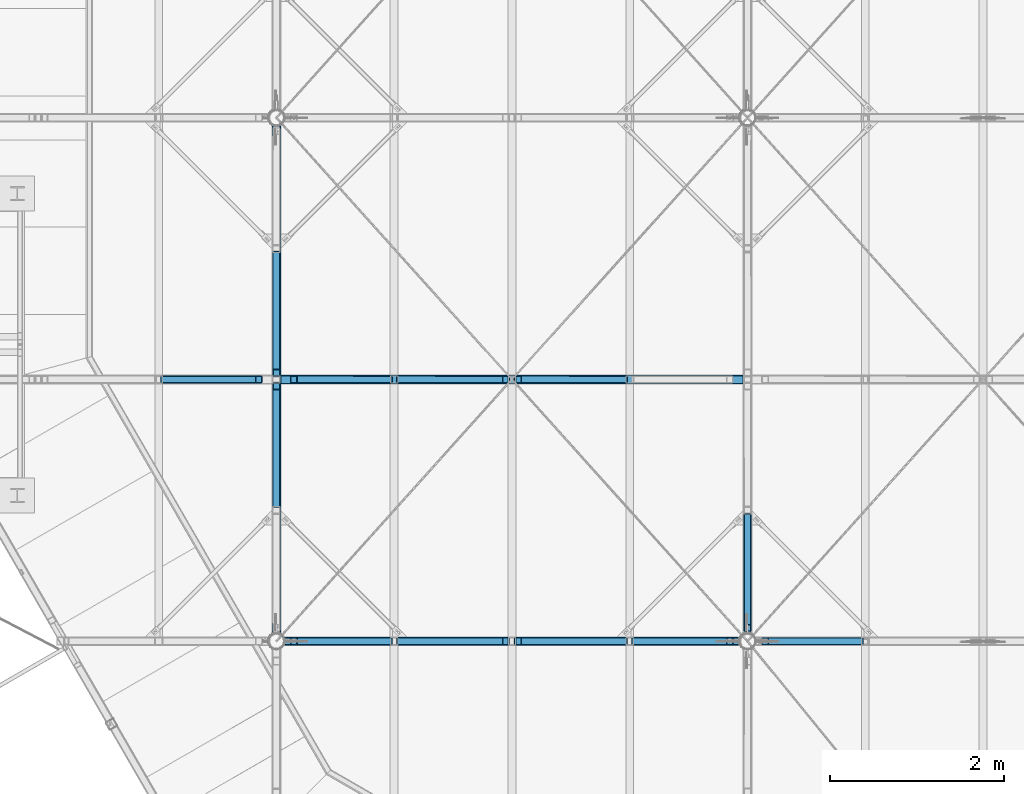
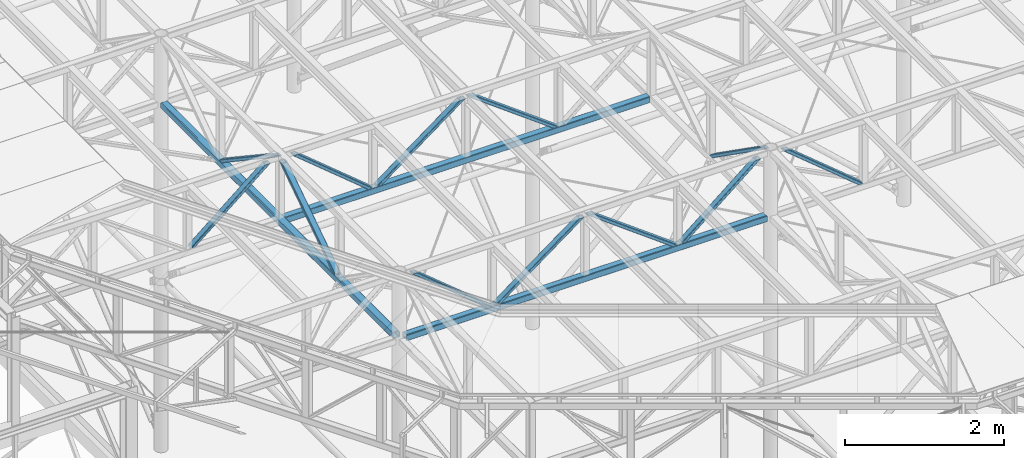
# One storey, part 43 of 132: 15 discrete accessories, 6 elements without a shape of their own.
"""IFC2X3 building model written with IfcOpenShell, lengths in millimetres."""

from ifc_helpers import new_model, si_unit, frame, origin_with_axes, origin_2d_with_axis, place, context, subcontext, project, spatial, hollow_rectangle, circle, extrude, boolean, halfspace, material, type_object, element, aggregate, save


model = new_model("IFC2X3")

# Units and contexts
model_context = context("Model", 3, precision=1e-05, world=origin_with_axes())
body_context = subcontext(model_context, "Body", "Model", "MODEL_VIEW")
ifc_project = project(units=[si_unit("LENGTHUNIT", "METRE", prefix="MILLI"), si_unit("AREAUNIT", "SQUARE_METRE"), si_unit("VOLUMEUNIT", "CUBIC_METRE"), si_unit("MASSUNIT", "GRAM", prefix="KILO"), si_unit("TIMEUNIT", "SECOND"), si_unit("PLANEANGLEUNIT", "RADIAN"), si_unit("SOLIDANGLEUNIT", "STERADIAN"), si_unit("THERMODYNAMICTEMPERATUREUNIT", "DEGREE_CELSIUS"), si_unit("LUMINOUSINTENSITYUNIT", "LUMEN")], contexts=[model_context])

# Site, building, storey
site_placement = place(None, origin_with_axes())
site = spatial("IfcSite", under=ifc_project, at=site_placement, Name="Budowa", CompositionType="ELEMENT")
building_placement = place(site_placement, origin_with_axes())
building = spatial("IfcBuilding", under=site, at=building_placement, Name="Undefined", CompositionType="ELEMENT")
storey_placement = place(building_placement, origin_with_axes())
storey = spatial("IfcBuildingStorey", under=building, at=storey_placement, Name="Undefined", CompositionType="ELEMENT", Elevation=0.0)

# Assembly, discrete accessory
assembly_1_placement = place(storey_placement, origin_with_axes())
assembly_1 = element("IfcElementAssembly", 1, at=assembly_1_placement, inside=storey, Name="Steel Assembly", AssemblyPlace="NOTDEFINED", PredefinedType="RIGID_FRAME")
ifc_material = material(Name="STEEL/S235")
discrete_accessory_type = type_object("IfcDiscreteAccessoryType", Name="BEAM")
discrete_accessory_1_placement = place(assembly_1_placement, frame((3884.0999999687, 9000.00000004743, 13830.0000000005), z_axis=(0.0, -1.0, 0.0), x_axis=(-0.77030791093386, 0.0, -0.637672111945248)))
solid_1 = boolean("DIFFERENCE", boolean("DIFFERENCE", extrude(hollow_rectangle(XDim=90.0, YDim=90.0, WallThickness=6.0, InnerFilletRadius=6.0, OuterFilletRadius=12.0, at=origin_2d_with_axis()), frame((1536.32046276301, -38.5153958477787, 3.71073838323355e-10), z_axis=(-0.637672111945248, -0.770307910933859, 0.0), x_axis=(0.0, 0.0, 1.0)), (0.0, 0.0, 1.0), 900.0), halfspace(frame((766.012551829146, 599.156716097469, 3.71073838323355e-10), z_axis=(-0.637672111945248, -0.770307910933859, 0.0), x_axis=(0.77030791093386, -0.637672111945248, 0.0)), True)), halfspace(frame((192.107651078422, -94.1204037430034, 3.71073838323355e-10), z_axis=(0.637672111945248, 0.770307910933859, 0.0), x_axis=(0.77030791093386, -0.637672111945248, 0.0)), True))
discrete_accessory_1 = element("IfcDiscreteAccessory", 2, at=discrete_accessory_1_placement, type_object=discrete_accessory_type, material=ifc_material, Name="BEAM", ObjectType="RHS90*50*5", context=body_context, shape_type="CSG", body=[
    boolean("DIFFERENCE", boolean("DIFFERENCE", boolean("DIFFERENCE", extrude(hollow_rectangle(XDim=50.0, YDim=90.0, WallThickness=5.0, InnerFilletRadius=7.5, OuterFilletRadius=12.5, at=origin_2d_with_axis()), frame((1532.27723418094, -9.9455317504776e-13, 0.0), z_axis=(-1.0, 0.0, 0.0), x_axis=(0.0, -1.0, 0.0)), (0.0, 0.0, 1.0), 1496.35), solid_1), halfspace(frame((1536.3204623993, -38.515395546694, 1000.0), z_axis=(-0.637672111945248, -0.770307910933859, 0.0), x_axis=(0.77030791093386, -0.637672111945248, 0.0)), True)), halfspace(frame((31.8836055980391, 38.5153955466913, 1000.0), z_axis=(0.637672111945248, 0.770307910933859, 0.0), x_axis=(-0.770307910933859, 0.637672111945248, 0.0)), True)),
])
aggregate(assembly_1, [discrete_accessory_1])

# Assembly, discrete accessories
assembly_2_placement = place(storey_placement, origin_with_axes())
assembly_2 = element("IfcElementAssembly", 3, at=assembly_2_placement, inside=storey, Name="Steel Assembly", AssemblyPlace="NOTDEFINED", PredefinedType="RIGID_FRAME")
discrete_accessory_2_placement = place(assembly_2_placement, frame((4165.99999993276, 9000.00000004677, 13830.0), z_axis=(0.0, -1.0, 0.0), x_axis=(0.770567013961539, 0.0, -0.637358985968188)))
solid_2 = boolean("DIFFERENCE", boolean("DIFFERENCE", extrude(hollow_rectangle(XDim=90.0, YDim=90.0, WallThickness=6.0, InnerFilletRadius=6.0, OuterFilletRadius=12.0, at=origin_2d_with_axis()), frame((1537.1065565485, 38.528350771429, -6.22094376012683e-10), z_axis=(-0.637358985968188, 0.770567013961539, 0.0), x_axis=(-0.770567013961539, -0.637358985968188, 0.0)), (0.0, 0.0, 1.0), 900.0), halfspace(frame((1537.1065565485, 38.5283507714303, 999.999999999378), z_axis=(-0.637358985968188, 0.770567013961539, 0.0), x_axis=(-0.770567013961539, -0.637358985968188, 0.0)), True)), halfspace(frame((963.483469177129, 732.038663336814, 999.999999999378), z_axis=(0.637358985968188, -0.770567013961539, 0.0), x_axis=(0.770567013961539, 0.637358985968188, 0.0)), True))
discrete_accessory_2 = element("IfcDiscreteAccessory", 4, at=discrete_accessory_2_placement, type_object=discrete_accessory_type, material=ifc_material, Name="BEAM", ObjectType="RHS90*50*5", context=body_context, shape_type="CSG", body=[
    boolean("DIFFERENCE", boolean("DIFFERENCE", boolean("DIFFERENCE", extrude(hollow_rectangle(XDim=50.0, YDim=90.0, WallThickness=5.0, InnerFilletRadius=7.5, OuterFilletRadius=12.5, at=origin_2d_with_axis()), frame((1533.07734352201, 2.27373675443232e-12, 0.0), z_axis=(-1.0, 0.0, 0.0), x_axis=(0.0, -1.0, 0.0)), (0.0, 0.0, 1.0), 1497.18), solid_2), halfspace(frame((1537.1065565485, 38.5283507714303, 999.999999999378), z_axis=(-0.637358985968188, 0.770567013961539, 0.0), x_axis=(-0.770567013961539, -0.637358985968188, 0.0)), True)), halfspace(frame((31.867949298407, -38.5283506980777, 1000.0), z_axis=(0.637358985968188, -0.770567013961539, 0.0), x_axis=(0.770567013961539, 0.637358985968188, 0.0)), True)),
])
discrete_accessory_3_placement = place(assembly_2_placement, frame((6724.99999993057, 9000.00000004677, 13830.0), z_axis=(0.0, -1.0, 0.0), x_axis=(-0.803557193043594, 0.0, -0.595227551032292)))
solid_3 = boolean("DIFFERENCE", boolean("DIFFERENCE", extrude(hollow_rectangle(XDim=90.0, YDim=90.0, WallThickness=6.0, InnerFilletRadius=6.0, OuterFilletRadius=12.0, at=origin_2d_with_axis()), frame((565.466173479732, 763.379333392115, -6.22094376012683e-10), z_axis=(-0.595227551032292, -0.803557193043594, 0.0), x_axis=(0.803557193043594, -0.595227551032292, 0.0)), (0.0, 0.0, 1.0), 900.0), halfspace(frame((565.46617347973, 763.379333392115, 999.999999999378), z_axis=(-0.595227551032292, -0.803557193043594, 0.0), x_axis=(0.803557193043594, -0.595227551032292, 0.0)), True)), halfspace(frame((29.7613775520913, 40.1778596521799, 1000.0), z_axis=(0.595227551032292, 0.803557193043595, 0.0), x_axis=(-0.803557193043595, 0.595227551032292, 0.0)), True))
solid_4 = boolean("DIFFERENCE", boolean("DIFFERENCE", extrude(hollow_rectangle(XDim=90.0, YDim=90.0, WallThickness=6.0, InnerFilletRadius=6.0, OuterFilletRadius=12.0, at=origin_2d_with_axis()), frame((1650.26838408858, -40.1778605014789, -6.22094376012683e-10), z_axis=(-0.595227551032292, -0.803557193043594, 0.0), x_axis=(0.803557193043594, -0.595227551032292, 0.0)), (0.0, 0.0, 1.0), 900.0), halfspace(frame((1650.2683829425, -40.1778596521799, 1000.0), z_axis=(-0.595227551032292, -0.803557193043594, 0.0), x_axis=(0.803557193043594, -0.595227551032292, 0.0)), True)), halfspace(frame((1114.56358815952, -763.379334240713, 999.999999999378), z_axis=(0.595227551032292, 0.803557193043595, 0.0), x_axis=(-0.803557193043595, 0.595227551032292, 0.0)), True))
discrete_accessory_3 = element("IfcDiscreteAccessory", 5, at=discrete_accessory_3_placement, type_object=discrete_accessory_type, material=ifc_material, Name="BEAM", ObjectType="RHS90*50*5", context=body_context, shape_type="CSG", body=[
    boolean("DIFFERENCE", boolean("DIFFERENCE", boolean("DIFFERENCE", boolean("DIFFERENCE", extrude(hollow_rectangle(XDim=50.0, YDim=90.0, WallThickness=5.0, InnerFilletRadius=7.5, OuterFilletRadius=12.5, at=origin_2d_with_axis()), frame((1632.54994793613, 0.0, 0.0), z_axis=(-1.0, 0.0, 0.0), x_axis=(0.0, -1.0, 0.0)), (0.0, 0.0, 1.0), 1585.07), solid_3), solid_4), halfspace(frame((1650.2683829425, -40.1778596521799, 1000.0), z_axis=(-0.595227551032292, -0.803557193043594, 0.0), x_axis=(0.803557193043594, -0.595227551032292, 0.0)), True)), halfspace(frame((29.7613775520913, 40.1778596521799, 1000.0), z_axis=(0.595227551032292, 0.803557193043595, 0.0), x_axis=(-0.803557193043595, 0.595227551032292, 0.0)), True)),
])
discrete_accessory_4_placement = place(assembly_2_placement, frame((6724.99999993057, 9000.00000004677, 13830.0), z_axis=(0.0, -1.0, 0.0), x_axis=(0.803557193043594, 0.0, -0.595227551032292)))
solid_5 = boolean("DIFFERENCE", boolean("DIFFERENCE", extrude(hollow_rectangle(XDim=90.0, YDim=90.0, WallThickness=6.0, InnerFilletRadius=6.0, OuterFilletRadius=12.0, at=origin_2d_with_axis()), frame((1650.26838408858, 40.1778605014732, -6.22094376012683e-10), z_axis=(-0.595227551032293, 0.803557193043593, 0.0), x_axis=(-0.803557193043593, -0.595227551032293, 0.0)), (0.0, 0.0, 1.0), 900.0), halfspace(frame((1650.2683829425, 40.1778596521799, 1000.0), z_axis=(-0.595227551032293, 0.803557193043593, 0.0), x_axis=(-0.803557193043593, -0.595227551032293, 0.0)), True)), halfspace(frame((1114.56358815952, 763.379334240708, 999.999999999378), z_axis=(0.595227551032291, -0.803557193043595, 0.0), x_axis=(0.803557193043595, 0.595227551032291, 0.0)), True))
solid_6 = boolean("DIFFERENCE", boolean("DIFFERENCE", extrude(hollow_rectangle(XDim=90.0, YDim=90.0, WallThickness=6.0, InnerFilletRadius=6.0, OuterFilletRadius=12.0, at=origin_2d_with_axis()), frame((565.46617347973, -763.379333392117, -6.22094376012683e-10), z_axis=(-0.595227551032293, 0.803557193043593, 0.0), x_axis=(-0.803557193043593, -0.595227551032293, 0.0)), (0.0, 0.0, 1.0), 900.0), halfspace(frame((565.46617347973, -763.37933339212, 999.999999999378), z_axis=(-0.595227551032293, 0.803557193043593, 0.0), x_axis=(-0.803557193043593, -0.595227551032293, 0.0)), True)), halfspace(frame((29.7613775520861, -40.1778596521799, 1000.0), z_axis=(0.595227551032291, -0.803557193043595, 0.0), x_axis=(0.803557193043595, 0.595227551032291, 0.0)), True))
discrete_accessory_4 = element("IfcDiscreteAccessory", 6, at=discrete_accessory_4_placement, type_object=discrete_accessory_type, material=ifc_material, Name="BEAM", ObjectType="RHS90*50*5", context=body_context, shape_type="CSG", body=[
    boolean("DIFFERENCE", boolean("DIFFERENCE", boolean("DIFFERENCE", boolean("DIFFERENCE", extrude(hollow_rectangle(XDim=50.0, YDim=90.0, WallThickness=5.0, InnerFilletRadius=7.5, OuterFilletRadius=12.5, at=origin_2d_with_axis()), frame((1632.54994793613, 0.0, 0.0), z_axis=(-1.0, 0.0, 0.0), x_axis=(0.0, -1.0, 0.0)), (0.0, 0.0, 1.0), 1585.07), solid_5), solid_6), halfspace(frame((1650.2683829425, 40.1778596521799, 1000.0), z_axis=(-0.595227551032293, 0.803557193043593, 0.0), x_axis=(-0.803557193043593, -0.595227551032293, 0.0)), True)), halfspace(frame((29.7613775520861, -40.1778596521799, 1000.0), z_axis=(0.595227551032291, -0.803557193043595, 0.0), x_axis=(0.803557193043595, 0.595227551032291, 0.0)), True)),
])
discrete_accessory_5_placement = place(assembly_2_placement, frame((4074.99999993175, 9000.00000004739, 12830.0), z_axis=(0.0, -1.0, 0.0), x_axis=(1.0, 0.0, 0.0)))
discrete_accessory_5 = element("IfcDiscreteAccessory", 7, at=discrete_accessory_5_placement, type_object=discrete_accessory_type, material=ifc_material, Name="BEAM", ObjectType="SHS100*8", context=body_context, shape_type="SweptSolid", body=[
    extrude(hollow_rectangle(XDim=100.0, YDim=100.0, WallThickness=8.0, InnerFilletRadius=8.0, OuterFilletRadius=16.0, at=origin_2d_with_axis()), frame((5300.0, 0.0, 0.0), z_axis=(-1.0, 0.0, 0.0), x_axis=(0.0, -1.0, 0.0)), (0.0, 0.0, 1.0), 5300.0),
])
aggregate(assembly_2, [discrete_accessory_2, discrete_accessory_3, discrete_accessory_4, discrete_accessory_5])

assembly_3_placement = place(storey_placement, origin_with_axes())
assembly_3 = element("IfcElementAssembly", 8, at=assembly_3_placement, inside=storey, Name="Steel Assembly", AssemblyPlace="NOTDEFINED", PredefinedType="RIGID_FRAME")
discrete_accessory_6_placement = place(assembly_3_placement, frame((4024.99999991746, 10499.8000000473, 12829.9999999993), z_axis=(1.0, 0.0, 0.0), x_axis=(0.0, -0.832050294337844, 0.554700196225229)))
solid_7 = boolean("DIFFERENCE", boolean("DIFFERENCE", extrude(hollow_rectangle(XDim=90.0, YDim=90.0, WallThickness=6.0, InnerFilletRadius=6.0, OuterFilletRadius=12.0, at=origin_2d_with_axis()), frame((27.5685997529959, -41.7134547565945, 2.20825313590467e-09), z_axis=(0.554700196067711, -0.832050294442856, 1.11090858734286e-10), x_axis=(0.832050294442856, 0.554700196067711, 1.66635594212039e-10)), (0.0, 0.0, 1.0), 900.0), halfspace(frame((27.5685997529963, -41.7134547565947, 1000.00000000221), z_axis=(0.554700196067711, -0.832050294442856, 1.11090858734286e-10), x_axis=(0.832050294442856, 0.554700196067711, 1.66635594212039e-10)), True)), halfspace(frame((526.798776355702, -790.558719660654, 1000.00000000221), z_axis=(-0.554700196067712, 0.832050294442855, -1.1109021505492e-10), x_axis=(-0.832050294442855, -0.554700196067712, -1.66634890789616e-10)), True))
solid_8 = boolean("DIFFERENCE", boolean("DIFFERENCE", extrude(hollow_rectangle(XDim=90.0, YDim=90.0, WallThickness=6.0, InnerFilletRadius=6.0, OuterFilletRadius=12.0, at=origin_2d_with_axis()), frame((1275.64404125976, 790.336839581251, 2.20825313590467e-09), z_axis=(0.554700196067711, -0.832050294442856, 1.11090858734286e-10), x_axis=(0.832050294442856, 0.554700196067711, 1.66635594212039e-10)), (0.0, 0.0, 1.0), 900.0), halfspace(frame((1275.64404125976, 790.33683958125, 1000.00000000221), z_axis=(0.554700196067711, -0.832050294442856, 1.11090858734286e-10), x_axis=(0.832050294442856, 0.554700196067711, 1.66635594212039e-10)), True)), halfspace(frame((1774.87421786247, 41.4915746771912, 1000.00000000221), z_axis=(-0.554700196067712, 0.832050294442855, -1.1109021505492e-10), x_axis=(-0.832050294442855, -0.554700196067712, -1.66634890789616e-10)), True))
discrete_accessory_6 = element("IfcDiscreteAccessory", 9, at=discrete_accessory_6_placement, type_object=discrete_accessory_type, material=ifc_material, Name="BEAM", ObjectType="RHS90*50*5", context=body_context, shape_type="CSG", body=[
    boolean("DIFFERENCE", boolean("DIFFERENCE", boolean("DIFFERENCE", boolean("DIFFERENCE", extrude(hollow_rectangle(XDim=50.0, YDim=90.0, WallThickness=5.0, InnerFilletRadius=7.5, OuterFilletRadius=12.5, at=origin_2d_with_axis()), frame((1763.05910368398, 0.0, 0.0), z_axis=(-1.0, 0.0, 0.0), x_axis=(0.0, -1.0, 0.0)), (0.0, 0.0, 1.0), 1723.34), solid_7), solid_8), halfspace(frame((1775.04062824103, 41.6025147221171, 999.999999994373), z_axis=(-0.554700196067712, 0.832050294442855, -1.1109021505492e-10), x_axis=(-0.832050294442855, -0.554700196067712, -1.66634890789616e-10)), True)), halfspace(frame((27.7350096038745, -41.6025147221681, 1000.00000000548), z_axis=(0.554700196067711, -0.832050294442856, 1.11090858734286e-10), x_axis=(0.832050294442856, 0.554700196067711, 1.66635594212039e-10)), True)),
])
discrete_accessory_7_placement = place(assembly_3_placement, frame((4024.99999991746, 7500.00000004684, 12829.9999999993), z_axis=(1.0, 0.0, 0.0), x_axis=(0.0, 0.832050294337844, 0.554700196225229)))
solid_9 = boolean("DIFFERENCE", boolean("DIFFERENCE", extrude(hollow_rectangle(XDim=90.0, YDim=90.0, WallThickness=6.0, InnerFilletRadius=6.0, OuterFilletRadius=12.0, at=origin_2d_with_axis()), frame((1275.81045145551, -790.447779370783, -2.51850795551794e-07), z_axis=(0.554700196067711, 0.832050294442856, -1.11090858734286e-10), x_axis=(-0.832050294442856, 0.554700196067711, 1.66634595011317e-10)), (0.0, 0.0, 1.0), 900.0), halfspace(frame((1275.81045165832, -790.447779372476, 999.999999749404), z_axis=(0.554700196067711, 0.832050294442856, -1.11090858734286e-10), x_axis=(-0.832050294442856, 0.554700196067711, 1.66634595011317e-10)), True)), halfspace(frame((1775.04062811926, -41.6025143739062, 999.999999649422), z_axis=(-0.554700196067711, -0.832050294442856, 1.11091980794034e-10), x_axis=(0.832050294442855, -0.554700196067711, -1.66634436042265e-10)), True))
solid_10 = boolean("DIFFERENCE", boolean("DIFFERENCE", extrude(hollow_rectangle(XDim=90.0, YDim=90.0, WallThickness=6.0, InnerFilletRadius=6.0, OuterFilletRadius=12.0, at=origin_2d_with_axis()), frame((27.7350097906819, 41.6025147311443, -4.89933715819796e-09), z_axis=(0.554700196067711, 0.832050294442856, -1.11090858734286e-10), x_axis=(-0.832050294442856, 0.554700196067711, 1.66634595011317e-10)), (0.0, 0.0, 1.0), 900.0), halfspace(frame((27.7350099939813, 41.6025147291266, 999.999999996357), z_axis=(0.554700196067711, 0.832050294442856, -1.11090858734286e-10), x_axis=(-0.832050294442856, 0.554700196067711, 1.66634595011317e-10)), True)), halfspace(frame((526.965186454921, 790.447779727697, 999.999999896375), z_axis=(-0.554700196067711, -0.832050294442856, 1.11091980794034e-10), x_axis=(0.832050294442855, -0.554700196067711, -1.66634436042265e-10)), True))
discrete_accessory_7 = element("IfcDiscreteAccessory", 10, at=discrete_accessory_7_placement, type_object=discrete_accessory_type, material=ifc_material, Name="BEAM", ObjectType="RHS90*50*5", context=body_context, shape_type="CSG", body=[
    boolean("DIFFERENCE", boolean("DIFFERENCE", boolean("DIFFERENCE", boolean("DIFFERENCE", extrude(hollow_rectangle(XDim=50.0, YDim=90.0, WallThickness=5.0, InnerFilletRadius=7.5, OuterFilletRadius=12.5, at=origin_2d_with_axis()), frame((1763.05910368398, 0.0, 0.0), z_axis=(-1.0, 0.0, 0.0), x_axis=(0.0, -1.0, 0.0)), (0.0, 0.0, 1.0), 1723.34), solid_9), solid_10), halfspace(frame((1775.04062811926, -41.6025143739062, 999.999999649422), z_axis=(-0.554700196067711, -0.832050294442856, 1.11091980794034e-10), x_axis=(0.832050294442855, -0.554700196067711, -1.66634436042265e-10)), True)), halfspace(frame((27.7350099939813, 41.6025147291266, 999.999999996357), z_axis=(0.554700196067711, 0.832050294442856, -1.11090858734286e-10), x_axis=(-0.832050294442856, 0.554700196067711, 1.66634595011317e-10)), True)),
])
discrete_accessory_8_placement = place(assembly_3_placement, frame((4024.99999991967, 6088.90000004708, 12830.0), z_axis=(1.0, 0.0, 0.0), x_axis=(0.0, 1.0, 0.0)))
discrete_accessory_8 = element("IfcDiscreteAccessory", 11, at=discrete_accessory_8_placement, type_object=discrete_accessory_type, material=ifc_material, Name="BEAM", ObjectType="SHS100*8", context=body_context, shape_type="CSG", body=[
    boolean("DIFFERENCE", boolean("DIFFERENCE", boolean("DIFFERENCE", boolean("DIFFERENCE", extrude(hollow_rectangle(XDim=100.0, YDim=100.0, WallThickness=8.0, InnerFilletRadius=8.0, OuterFilletRadius=16.0, at=origin_2d_with_axis()), frame((5911.09999999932, 0.0, 0.0), z_axis=(-1.0, 0.0, 0.0), x_axis=(0.0, -1.0, 0.0)), (0.0, 0.0, 1.0), 6000.0), extrude(circle(Radius=89.9, at=origin_2d_with_axis()), frame((5911.09999999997, 1950.0, 0.0), z_axis=(0.0, -1.0, 0.0), x_axis=(-1.0, 0.0, 0.0)), (0.0, 0.0, 1.0), 2100.0)), extrude(circle(Radius=89.9, at=origin_2d_with_axis()), frame((-88.9000000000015, 1950.0, -5.45696821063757e-12), z_axis=(0.0, -1.0, 0.0), x_axis=(-1.0, 0.0, 0.0)), (0.0, 0.0, 1.0), 2100.0)), halfspace(frame((5911.09999999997, -5339.0, 0.0), z_axis=(-1.0, 0.0, 0.0), x_axis=(0.0, 0.0, -1.0)), True)), halfspace(frame((-88.9000000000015, -5339.0, -5.45696821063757e-12), z_axis=(-1.0, 0.0, 0.0), x_axis=(0.0, 0.0, -1.0)), False)),
])
aggregate(assembly_3, [discrete_accessory_6, discrete_accessory_7, discrete_accessory_8])

# Assembly, discrete accessory
assembly_4_placement = place(storey_placement, origin_with_axes())
assembly_4 = element("IfcElementAssembly", 12, at=assembly_4_placement, inside=storey, Name="Steel Assembly", AssemblyPlace="NOTDEFINED", PredefinedType="RIGID_FRAME")
discrete_accessory_9_placement = place(assembly_4_placement, frame((9424.99999994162, 7499.80000004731, 12829.9999999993), z_axis=(1.0, 0.0, 0.0), x_axis=(0.0, -0.817796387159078, 0.575507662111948)))
solid_11 = boolean("DIFFERENCE", boolean("DIFFERENCE", extrude(hollow_rectangle(XDim=90.0, YDim=90.0, WallThickness=6.0, InnerFilletRadius=6.0, OuterFilletRadius=12.0, at=origin_2d_with_axis()), frame((28.6118238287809, -41.0049208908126, 2.20825313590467e-09), z_axis=(0.575507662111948, -0.817796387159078, 0.0), x_axis=(0.817796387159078, 0.575507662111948, 0.0)), (0.0, 0.0, 1.0), 900.0), halfspace(frame((28.6118238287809, -41.0049208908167, 1000.00000000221), z_axis=(0.575507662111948, -0.817796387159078, 0.0), x_axis=(0.817796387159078, 0.575507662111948, 0.0)), True)), halfspace(frame((546.568719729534, -777.021669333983, 1000.00000000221), z_axis=(-0.57550766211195, 0.817796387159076, 0.0), x_axis=(-0.817796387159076, -0.57550766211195, 0.0)), True))
discrete_accessory_9 = element("IfcDiscreteAccessory", 13, at=discrete_accessory_9_placement, type_object=discrete_accessory_type, material=ifc_material, Name="BEAM", ObjectType="RHS90*50*5", context=body_context, shape_type="CSG", body=[
    boolean("DIFFERENCE", boolean("DIFFERENCE", boolean("DIFFERENCE", extrude(hollow_rectangle(XDim=50.0, YDim=90.0, WallThickness=5.0, InnerFilletRadius=7.5, OuterFilletRadius=12.5, at=origin_2d_with_axis()), frame((1708.27858753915, 0.0, 0.0), z_axis=(-1.0, 0.0, 0.0), x_axis=(0.0, -1.0, 0.0)), (0.0, 0.0, 1.0), 1678.96), solid_11), halfspace(frame((1708.8209441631, 40.8898193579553, 1000.0), z_axis=(-0.57550766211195, 0.817796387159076, 0.0), x_axis=(-0.817796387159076, -0.57550766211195, 0.0)), True)), halfspace(frame((28.7753831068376, -40.8898193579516, 1000.0), z_axis=(0.575507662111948, -0.817796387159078, 0.0), x_axis=(0.817796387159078, 0.575507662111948, 0.0)), True)),
])
aggregate(assembly_4, [discrete_accessory_9])

assembly_5_placement = place(storey_placement, origin_with_axes())
assembly_5 = element("IfcElementAssembly", 14, at=assembly_5_placement, inside=storey, Name="Steel Assembly", AssemblyPlace="NOTDEFINED", PredefinedType="RIGID_FRAME")
discrete_accessory_10_placement = place(assembly_5_placement, frame((9565.99999995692, 6000.00000004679, 13830.0), z_axis=(0.0, -1.0, 0.0), x_axis=(0.770567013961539, 0.0, -0.637358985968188)))
solid_12 = boolean("DIFFERENCE", boolean("DIFFERENCE", extrude(hollow_rectangle(XDim=90.0, YDim=90.0, WallThickness=6.0, InnerFilletRadius=6.0, OuterFilletRadius=12.0, at=origin_2d_with_axis()), frame((1537.1065565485, 38.528350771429, -6.22094376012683e-10), z_axis=(-0.637358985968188, 0.770567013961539, 0.0), x_axis=(-0.770567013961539, -0.637358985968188, 0.0)), (0.0, 0.0, 1.0), 900.0), halfspace(frame((1537.1065565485, 38.5283507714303, 999.999999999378), z_axis=(-0.637358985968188, 0.770567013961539, 0.0), x_axis=(-0.770567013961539, -0.637358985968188, 0.0)), True)), halfspace(frame((963.483469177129, 732.038663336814, 999.999999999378), z_axis=(0.637358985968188, -0.770567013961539, 0.0), x_axis=(0.770567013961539, 0.637358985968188, 0.0)), True))
discrete_accessory_10 = element("IfcDiscreteAccessory", 15, at=discrete_accessory_10_placement, type_object=discrete_accessory_type, material=ifc_material, Name="BEAM", ObjectType="RHS90*50*5", context=body_context, shape_type="CSG", body=[
    boolean("DIFFERENCE", boolean("DIFFERENCE", boolean("DIFFERENCE", extrude(hollow_rectangle(XDim=50.0, YDim=90.0, WallThickness=5.0, InnerFilletRadius=7.5, OuterFilletRadius=12.5, at=origin_2d_with_axis()), frame((1533.07734352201, 2.27373675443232e-12, 0.0), z_axis=(-1.0, 0.0, 0.0), x_axis=(0.0, -1.0, 0.0)), (0.0, 0.0, 1.0), 1497.18), solid_12), halfspace(frame((1537.1065565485, 38.5283507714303, 999.999999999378), z_axis=(-0.637358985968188, 0.770567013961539, 0.0), x_axis=(-0.770567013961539, -0.637358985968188, 0.0)), True)), halfspace(frame((31.867949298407, -38.5283506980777, 1000.0), z_axis=(0.637358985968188, -0.770567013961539, 0.0), x_axis=(0.770567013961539, 0.637358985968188, 0.0)), True)),
])
aggregate(assembly_5, [discrete_accessory_10])

# Assembly, discrete accessories
assembly_6_placement = place(storey_placement, origin_with_axes())
assembly_6 = element("IfcElementAssembly", 16, at=assembly_6_placement, inside=storey, Name="Steel Assembly", AssemblyPlace="NOTDEFINED", PredefinedType="RIGID_FRAME")
discrete_accessory_11_placement = place(assembly_6_placement, frame((9283.99999993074, 6000.00000004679, 13830.0), z_axis=(0.0, -1.0, 0.0), x_axis=(-0.770567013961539, 0.0, -0.637358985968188)))
solid_13 = boolean("DIFFERENCE", boolean("DIFFERENCE", extrude(hollow_rectangle(XDim=90.0, YDim=90.0, WallThickness=6.0, InnerFilletRadius=6.0, OuterFilletRadius=12.0, at=origin_2d_with_axis()), frame((1537.1065565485, -38.5283507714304, -6.22094376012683e-10), z_axis=(-0.637358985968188, -0.770567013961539, 0.0), x_axis=(0.770567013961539, -0.637358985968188, 0.0)), (0.0, 0.0, 1.0), 900.0), halfspace(frame((1537.1065565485, -38.5283507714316, 999.999999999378), z_axis=(-0.637358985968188, -0.770567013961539, 0.0), x_axis=(0.770567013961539, -0.637358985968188, 0.0)), True)), halfspace(frame((963.483469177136, -732.038663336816, 999.999999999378), z_axis=(0.637358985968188, 0.770567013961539, 0.0), x_axis=(-0.770567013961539, 0.637358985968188, 0.0)), True))
discrete_accessory_11 = element("IfcDiscreteAccessory", 17, at=discrete_accessory_11_placement, type_object=discrete_accessory_type, material=ifc_material, Name="BEAM", ObjectType="RHS90*50*5", context=body_context, shape_type="CSG", body=[
    boolean("DIFFERENCE", boolean("DIFFERENCE", boolean("DIFFERENCE", extrude(hollow_rectangle(XDim=50.0, YDim=90.0, WallThickness=5.0, InnerFilletRadius=7.5, OuterFilletRadius=12.5, at=origin_2d_with_axis()), frame((1533.07734352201, 2.27373675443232e-12, 0.0), z_axis=(-1.0, 0.0, 0.0), x_axis=(0.0, -1.0, 0.0)), (0.0, 0.0, 1.0), 1497.18), solid_13), halfspace(frame((1537.1065565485, -38.5283507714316, 999.999999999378), z_axis=(-0.637358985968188, -0.770567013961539, 0.0), x_axis=(0.770567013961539, -0.637358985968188, 0.0)), True)), halfspace(frame((31.867949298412, 38.52835069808, 1000.0), z_axis=(0.637358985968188, 0.770567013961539, 0.0), x_axis=(-0.770567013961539, 0.637358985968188, 0.0)), True)),
])
discrete_accessory_12_placement = place(assembly_6_placement, frame((4165.99999993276, 6000.00000004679, 13830.0), z_axis=(0.0, -1.0, 0.0), x_axis=(0.770567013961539, 0.0, -0.637358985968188)))
solid_14 = boolean("DIFFERENCE", boolean("DIFFERENCE", extrude(hollow_rectangle(XDim=90.0, YDim=90.0, WallThickness=6.0, InnerFilletRadius=6.0, OuterFilletRadius=12.0, at=origin_2d_with_axis()), frame((1537.1065565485, 38.528350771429, -6.22094376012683e-10), z_axis=(-0.637358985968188, 0.770567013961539, 0.0), x_axis=(-0.770567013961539, -0.637358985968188, 0.0)), (0.0, 0.0, 1.0), 900.0), halfspace(frame((1537.1065565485, 38.5283507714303, 999.999999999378), z_axis=(-0.637358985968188, 0.770567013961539, 0.0), x_axis=(-0.770567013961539, -0.637358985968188, 0.0)), True)), halfspace(frame((963.483469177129, 732.038663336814, 999.999999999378), z_axis=(0.637358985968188, -0.770567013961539, 0.0), x_axis=(0.770567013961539, 0.637358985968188, 0.0)), True))
discrete_accessory_12 = element("IfcDiscreteAccessory", 18, at=discrete_accessory_12_placement, type_object=discrete_accessory_type, material=ifc_material, Name="BEAM", ObjectType="RHS90*50*5", context=body_context, shape_type="CSG", body=[
    boolean("DIFFERENCE", boolean("DIFFERENCE", boolean("DIFFERENCE", extrude(hollow_rectangle(XDim=50.0, YDim=90.0, WallThickness=5.0, InnerFilletRadius=7.5, OuterFilletRadius=12.5, at=origin_2d_with_axis()), frame((1533.07734352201, 2.27373675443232e-12, 0.0), z_axis=(-1.0, 0.0, 0.0), x_axis=(0.0, -1.0, 0.0)), (0.0, 0.0, 1.0), 1497.18), solid_14), halfspace(frame((1537.1065565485, 38.5283507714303, 999.999999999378), z_axis=(-0.637358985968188, 0.770567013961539, 0.0), x_axis=(-0.770567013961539, -0.637358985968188, 0.0)), True)), halfspace(frame((31.867949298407, -38.5283506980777, 1000.0), z_axis=(0.637358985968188, -0.770567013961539, 0.0), x_axis=(0.770567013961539, 0.637358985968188, 0.0)), True)),
])
discrete_accessory_13_placement = place(assembly_6_placement, frame((6724.99999993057, 6000.00000004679, 13830.0), z_axis=(0.0, -1.0, 0.0), x_axis=(-0.803557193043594, 0.0, -0.595227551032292)))
solid_15 = boolean("DIFFERENCE", boolean("DIFFERENCE", extrude(hollow_rectangle(XDim=90.0, YDim=90.0, WallThickness=6.0, InnerFilletRadius=6.0, OuterFilletRadius=12.0, at=origin_2d_with_axis()), frame((565.466173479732, 763.379333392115, -6.22094376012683e-10), z_axis=(-0.595227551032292, -0.803557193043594, 0.0), x_axis=(0.803557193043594, -0.595227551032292, 0.0)), (0.0, 0.0, 1.0), 900.0), halfspace(frame((565.46617347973, 763.379333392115, 999.999999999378), z_axis=(-0.595227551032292, -0.803557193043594, 0.0), x_axis=(0.803557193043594, -0.595227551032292, 0.0)), True)), halfspace(frame((29.7613775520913, 40.1778596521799, 1000.0), z_axis=(0.595227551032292, 0.803557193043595, 0.0), x_axis=(-0.803557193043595, 0.595227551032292, 0.0)), True))
solid_16 = boolean("DIFFERENCE", boolean("DIFFERENCE", extrude(hollow_rectangle(XDim=90.0, YDim=90.0, WallThickness=6.0, InnerFilletRadius=6.0, OuterFilletRadius=12.0, at=origin_2d_with_axis()), frame((1650.26838408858, -40.1778605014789, -6.22094376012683e-10), z_axis=(-0.595227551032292, -0.803557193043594, 0.0), x_axis=(0.803557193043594, -0.595227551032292, 0.0)), (0.0, 0.0, 1.0), 900.0), halfspace(frame((1650.2683829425, -40.1778596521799, 1000.0), z_axis=(-0.595227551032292, -0.803557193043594, 0.0), x_axis=(0.803557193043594, -0.595227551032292, 0.0)), True)), halfspace(frame((1114.56358815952, -763.379334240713, 999.999999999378), z_axis=(0.595227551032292, 0.803557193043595, 0.0), x_axis=(-0.803557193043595, 0.595227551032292, 0.0)), True))
discrete_accessory_13 = element("IfcDiscreteAccessory", 19, at=discrete_accessory_13_placement, type_object=discrete_accessory_type, material=ifc_material, Name="BEAM", ObjectType="RHS90*50*5", context=body_context, shape_type="CSG", body=[
    boolean("DIFFERENCE", boolean("DIFFERENCE", boolean("DIFFERENCE", boolean("DIFFERENCE", extrude(hollow_rectangle(XDim=50.0, YDim=90.0, WallThickness=5.0, InnerFilletRadius=7.5, OuterFilletRadius=12.5, at=origin_2d_with_axis()), frame((1632.54994793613, 0.0, 0.0), z_axis=(-1.0, 0.0, 0.0), x_axis=(0.0, -1.0, 0.0)), (0.0, 0.0, 1.0), 1585.07), solid_15), solid_16), halfspace(frame((1650.2683829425, -40.1778596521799, 1000.0), z_axis=(-0.595227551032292, -0.803557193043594, 0.0), x_axis=(0.803557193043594, -0.595227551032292, 0.0)), True)), halfspace(frame((29.7613775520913, 40.1778596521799, 1000.0), z_axis=(0.595227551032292, 0.803557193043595, 0.0), x_axis=(-0.803557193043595, 0.595227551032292, 0.0)), True)),
])
discrete_accessory_14_placement = place(assembly_6_placement, frame((6724.99999993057, 6000.00000004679, 13830.0), z_axis=(0.0, -1.0, 0.0), x_axis=(0.803557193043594, 0.0, -0.595227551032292)))
solid_17 = boolean("DIFFERENCE", boolean("DIFFERENCE", extrude(hollow_rectangle(XDim=90.0, YDim=90.0, WallThickness=6.0, InnerFilletRadius=6.0, OuterFilletRadius=12.0, at=origin_2d_with_axis()), frame((1650.26838408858, 40.1778605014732, -6.22094376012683e-10), z_axis=(-0.595227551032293, 0.803557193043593, 0.0), x_axis=(-0.803557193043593, -0.595227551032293, 0.0)), (0.0, 0.0, 1.0), 900.0), halfspace(frame((1650.2683829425, 40.1778596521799, 1000.0), z_axis=(-0.595227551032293, 0.803557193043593, 0.0), x_axis=(-0.803557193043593, -0.595227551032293, 0.0)), True)), halfspace(frame((1114.56358815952, 763.379334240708, 999.999999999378), z_axis=(0.595227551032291, -0.803557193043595, 0.0), x_axis=(0.803557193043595, 0.595227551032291, 0.0)), True))
solid_18 = boolean("DIFFERENCE", boolean("DIFFERENCE", extrude(hollow_rectangle(XDim=90.0, YDim=90.0, WallThickness=6.0, InnerFilletRadius=6.0, OuterFilletRadius=12.0, at=origin_2d_with_axis()), frame((565.46617347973, -763.379333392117, -6.22094376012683e-10), z_axis=(-0.595227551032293, 0.803557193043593, 0.0), x_axis=(-0.803557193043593, -0.595227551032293, 0.0)), (0.0, 0.0, 1.0), 900.0), halfspace(frame((565.46617347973, -763.37933339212, 999.999999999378), z_axis=(-0.595227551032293, 0.803557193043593, 0.0), x_axis=(-0.803557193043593, -0.595227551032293, 0.0)), True)), halfspace(frame((29.7613775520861, -40.1778596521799, 1000.0), z_axis=(0.595227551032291, -0.803557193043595, 0.0), x_axis=(0.803557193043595, 0.595227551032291, 0.0)), True))
discrete_accessory_14 = element("IfcDiscreteAccessory", 20, at=discrete_accessory_14_placement, type_object=discrete_accessory_type, material=ifc_material, Name="BEAM", ObjectType="RHS90*50*5", context=body_context, shape_type="CSG", body=[
    boolean("DIFFERENCE", boolean("DIFFERENCE", boolean("DIFFERENCE", boolean("DIFFERENCE", extrude(hollow_rectangle(XDim=50.0, YDim=90.0, WallThickness=5.0, InnerFilletRadius=7.5, OuterFilletRadius=12.5, at=origin_2d_with_axis()), frame((1632.54994793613, 0.0, 0.0), z_axis=(-1.0, 0.0, 0.0), x_axis=(0.0, -1.0, 0.0)), (0.0, 0.0, 1.0), 1585.07), solid_17), solid_18), halfspace(frame((1650.2683829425, 40.1778596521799, 1000.0), z_axis=(-0.595227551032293, 0.803557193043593, 0.0), x_axis=(-0.803557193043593, -0.595227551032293, 0.0)), True)), halfspace(frame((29.7613775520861, -40.1778596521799, 1000.0), z_axis=(0.595227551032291, -0.803557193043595, 0.0), x_axis=(0.803557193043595, 0.595227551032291, 0.0)), True)),
])
discrete_accessory_15_placement = place(assembly_6_placement, frame((4113.99999993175, 6000.00000004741, 12830.0), z_axis=(0.0, -1.0, 0.0), x_axis=(1.0, 0.0, 0.0)))
discrete_accessory_15 = element("IfcDiscreteAccessory", 21, at=discrete_accessory_15_placement, type_object=discrete_accessory_type, material=ifc_material, Name="BEAM", ObjectType="SHS100*8", context=body_context, shape_type="CSG", body=[
    boolean("DIFFERENCE", boolean("DIFFERENCE", boolean("DIFFERENCE", boolean("DIFFERENCE", extrude(hollow_rectangle(XDim=100.0, YDim=100.0, WallThickness=8.0, InnerFilletRadius=8.0, OuterFilletRadius=16.0, at=origin_2d_with_axis()), frame((5311.00000001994, 0.0, 0.0), z_axis=(-1.0, 0.0, 0.0), x_axis=(0.0, -1.0, 0.0)), (0.0, 0.0, 1.0), 5400.0), extrude(circle(Radius=89.9, at=origin_2d_with_axis()), frame((-89.0000000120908, 1950.0, 1.09139364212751e-11), z_axis=(0.0, -1.0, 0.0), x_axis=(0.0, 0.0, 1.0)), (0.0, 0.0, 1.0), 2100.0)), extrude(circle(Radius=89.9, at=origin_2d_with_axis()), frame((5311.00000001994, 1950.0, 7.27595761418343e-12), z_axis=(0.0, -1.0, 0.0), x_axis=(0.0, 0.0, 1.0)), (0.0, 0.0, 1.0), 2100.0)), halfspace(frame((5311.00000001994, -5339.0, 7.27595761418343e-12), z_axis=(-1.0, 0.0, 0.0), x_axis=(0.0, 0.0, -1.0)), True)), halfspace(frame((-89.0000000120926, -5339.0, 1.09139364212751e-11), z_axis=(-1.0, 0.0, 0.0), x_axis=(0.0, 0.0, -1.0)), False)),
])
aggregate(assembly_6, [discrete_accessory_11, discrete_accessory_12, discrete_accessory_13, discrete_accessory_14, discrete_accessory_15])

save(model, "model.ifc")
